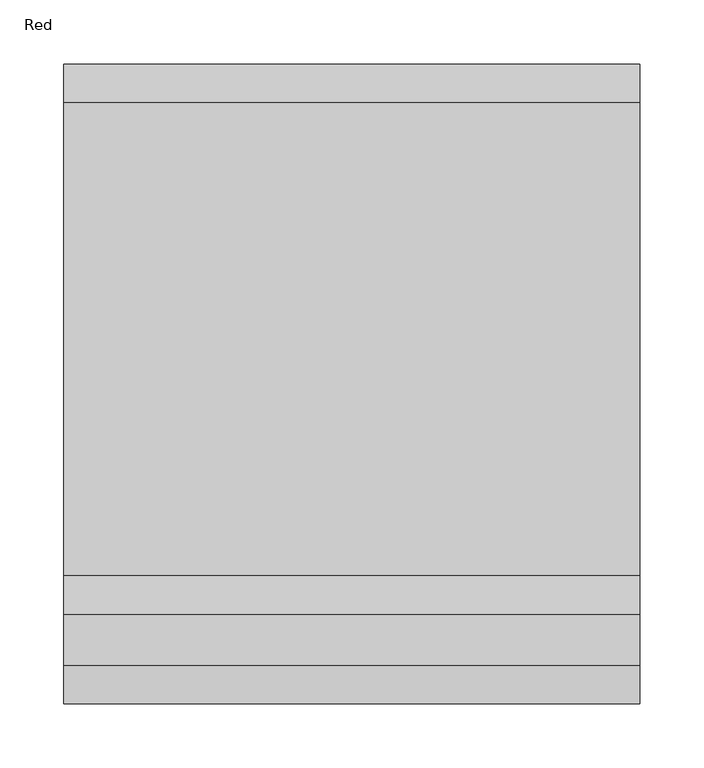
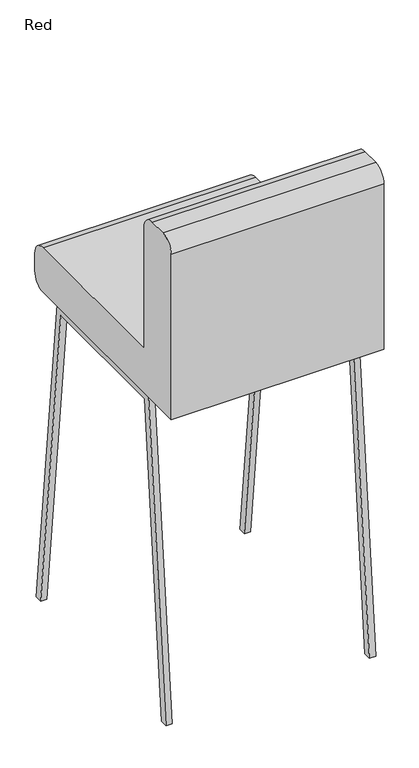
"""IFC4 building model written with IfcOpenShell, lengths in millimetres: furniture geometry, TN.RES.Chair05 : Red."""

from ifc_helpers import new_model, si_unit, point, frame, frame_2d, origin, place, context, project, spatial, polyline, circle_curve, trimmed, segment, composite_curve, outline, extrude, source, transform, mapped, element, save


def red_9dfa4864(model_context):
    return source(origin(), model_context, "Body", "SweptSolid", [
        extrude(outline(polyline([(250.0, 0.0), (233.768915, 0.0), (159.741415, 684.0), (-147.8480366, 684.0), (-208.8427588, 0.0), (-225.0, 0.0), (-161.7566244, 700.0), (173.2433756, 700.0), (250.0, 0.0)])), frame((-222.0, 0.0, 0.0), z_axis=(1.0, 0.0, 0.0), x_axis=(0.0, 1.0, 0.0)), (0.0, 0.0, 1.0), 13.0),
        extrude(outline(polyline([(-161.7566244, 700.0), (173.2433756, 700.0), (250.0, 0.0), (233.768915, 0.0), (159.741415, 684.0), (-147.8480366, 684.0), (-208.8427588, 0.0), (-225.0, 0.0), (-161.7566244, 700.0)])), frame((209.0, 0.0, 0.0), z_axis=(1.0, 0.0, 0.0), x_axis=(0.0, 1.0, 0.0)), (0.0, 0.0, 1.0), 13.0),
        extrude(outline(composite_curve([segment(polyline([(220.0, 700.0), (-250.0, 700.0), (-250.0, 1070.0)]), True, "CONTINUOUS"), segment(trimmed(circle_curve(frame_2d((-220.0, 1070.0)), 30.0), [point((-250.0, 1070.0))], [point((-220.0, 1100.0))], False, "CARTESIAN"), True, "CONTINUOUS"), segment(polyline([(-220.0, 1100.0), (-180.0, 1100.0)]), True, "CONTINUOUS"), segment(trimmed(circle_curve(frame_2d((-180.0, 1070.0)), 30.0), [point((-180.0, 1100.0))], [point((-150.0, 1070.0))], False, "CARTESIAN"), True, "CONTINUOUS"), segment(polyline([(-150.0, 1070.0), (-150.0, 800.0), (220.0, 800.0)]), True, "CONTINUOUS"), segment(trimmed(circle_curve(frame_2d((220.0, 770.0)), 30.0), [point((220.0, 800.0))], [point((250.0, 770.0))], False, "CARTESIAN"), True, "CONTINUOUS"), segment(polyline([(250.0, 770.0), (250.0, 730.0)]), True, "CONTINUOUS"), segment(trimmed(circle_curve(frame_2d((220.0, 730.0)), 30.0), [point((250.0, 730.0))], [point((220.0, 700.0))], False, "CARTESIAN"), True, "CONTINUOUS")], self_intersect=False)), frame((-225.0, 0.0, 0.0), z_axis=(1.0, 0.0, 0.0), x_axis=(0.0, 1.0, 0.0)), (0.0, 0.0, 1.0), 450.0),
    ])


if __name__ == "__main__":
    model = new_model("IFC4")
    model_context = context("Model", 3, world=origin())
    ifc_project = project(units=[si_unit("LENGTHUNIT", "METRE", prefix="MILLI")], contexts=[model_context])
    site = spatial("IfcSite", under=ifc_project)
    building = spatial("IfcBuilding", under=site)
    placement = place(None, origin())
    red_shape = red_9dfa4864(model_context)
    element("IfcFurniture", 1, ObjectType="TN.RES.Chair05 : Red", at=placement, inside=building, context=model_context, shape_type="MappedRepresentation", body=[
        mapped(red_shape, transform((0.0, 0.0, 0.0), x_axis=(1.0, 0.0, 0.0), y_axis=(0.0, 1.0, 0.0), z_axis=(0.0, 0.0, 1.0))),
    ])
    save(model, "model.ifc")
